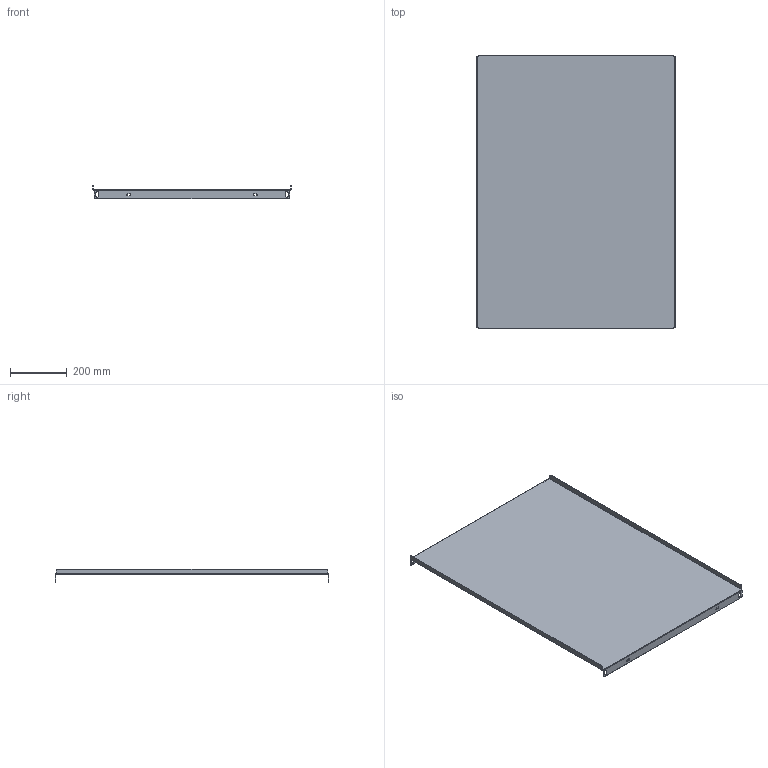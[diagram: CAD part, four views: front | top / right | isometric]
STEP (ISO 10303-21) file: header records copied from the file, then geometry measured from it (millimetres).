
FILE_DESCRIPTION (( 'STEP AP203' ), '1' );
FILE_NAME ('EUPU-080100.STEP', '2015-04-22T09:31:27', ( 'Admin' ), ( '' ), 'SwSTEP 2.0', 'SolidWorks 2014', '' );
FILE_SCHEMA (( 'CONFIG_CONTROL_DESIGN' ));
Length unit declared in the file: millimetre
Products named in the file (1): EUPU-080100
Bounding box: 698 x 965 x 47.5 mm (x, y, z)
Volume: 1468428.6 mm3; surface area: 1490129.4 mm2
Topology: 1 solids, 1 shells, 82 faces, 240 edges, 160 vertices
Faces by surface type: plane 46, cylinder 36
Entity records: 2845 total; most frequent: CARTESIAN_POINT 483, ORIENTED_EDGE 480, DIRECTION 478, EDGE_CURVE 240, VECTOR 168, LINE 168, VERTEX_POINT 160, AXIS2_PLACEMENT_3D 155
